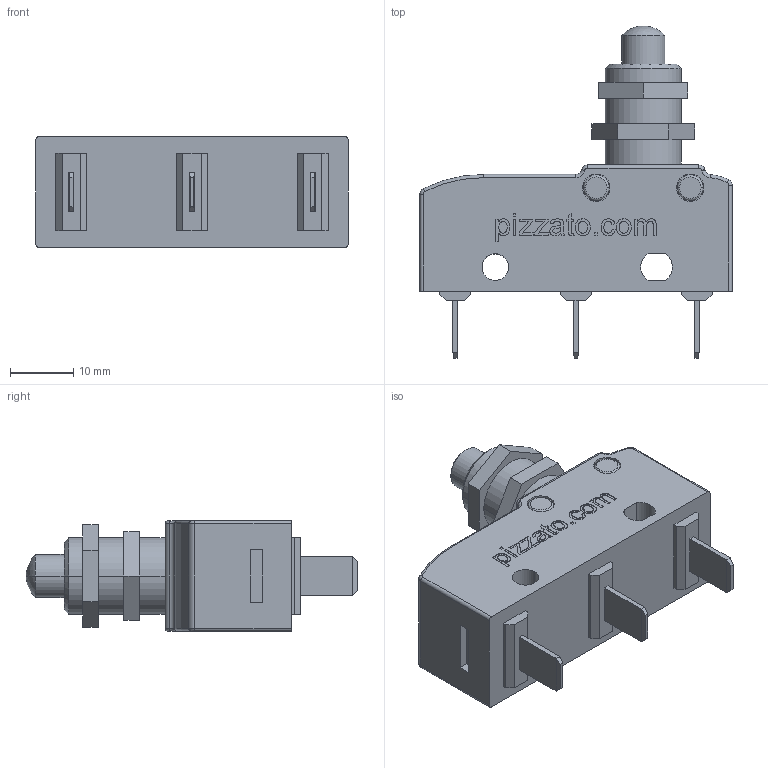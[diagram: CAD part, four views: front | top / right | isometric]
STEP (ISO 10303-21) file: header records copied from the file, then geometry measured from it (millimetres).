
FILE_DESCRIPTION (( 'STEP AP203' ), '1' );
FILE_NAME ('Pizzato_MK_HxxD10.STEP', '2009-02-13T16:01:14', ( 'mario' ), ( '' ), 'SwSTEP 2.0', 'SolidWorks 2009', '' );
FILE_SCHEMA (( 'CONFIG_CONTROL_DESIGN' ));
Length unit declared in the file: millimetre
Products named in the file (5): Pizzato_Pulsante_MK10; Pizzato_dado_72_72; Pizzato_MK_HxxD10; Pizzato_Custodia_MK_MKH_06-17; Pizzato_Supporto MK10
Assembly tree (5 placements, depth 2):
  Pizzato_MK_HxxD10
    Pizzato_dado_72_72  x2
    Pizzato_Pulsante_MK10
    Pizzato_Custodia_MK_MKH_06-17
    Pizzato_Supporto MK10
Bounding box: 49.2 x 52.3 x 17.4 mm (x, y, z)
Volume: 17855.7 mm3; surface area: 7471.7 mm2
Topology: 5 solids, 5 shells, 466 faces, 1174 edges, 767 vertices
Faces by surface type: plane 291, cylinder 76, bspline 69, torus 26, sphere 2, cone 2
Entity records: 17493 total; most frequent: CARTESIAN_POINT 6258, ORIENTED_EDGE 2300, DIRECTION 2000, EDGE_CURVE 1150, VECTOR 814, LINE 814, VERTEX_POINT 751, AXIS2_PLACEMENT_3D 593
